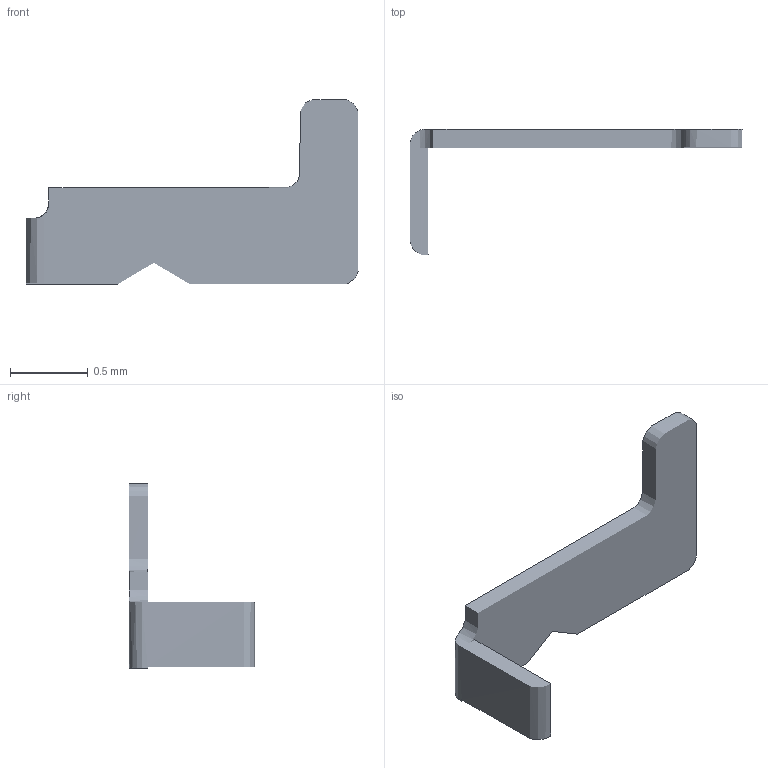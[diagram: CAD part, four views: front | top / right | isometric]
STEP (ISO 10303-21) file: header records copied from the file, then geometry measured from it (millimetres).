
FILE_DESCRIPTION(/* description */ ('STEP AP242 Edition 2','CAx-IF Rec.Pracs.---Representation and Presentation of Product Manufacturing Information (PMI)---4.0---2014-10-13','CAx-IF Rec.Pracs.---3D Tessellated Geometry---0.4---2014-09-14','2;1','CAx-IF Rec.Pracs.---User Defined Attributes---1.5---2016-08-15'),/* implementation_level */ '2;1');
FILE_NAME(/* name */ 'Assembly 1 - Part 29',/* time_stamp */ '2026-03-29T21:14:57Z',/* author */ (''),/* organization */ (''),/* preprocessor_version */ 'ST-DEVELOPER v20',/* originating_system */ 'ONSHAPE BY PTC INC, 1.212',/* authorisation */ ' ');
FILE_SCHEMA (('AP242_MANAGED_MODEL_BASED_3D_ENGINEERING_MIM_LF { 1 0 10303 442 3 1 4 }'));
Length unit declared in the file: metre
Products named in the file (1): Part 29
Bounding box: 2.13 x 0.81 x 1.19 mm (x, y, z)
Surface area: 4.4 mm2 (no closed solid volume)
Topology: 0 solids, 1 shells, 1 faces, 0 edges, 0 vertices
Faces by surface type: other 1
Entity records: 31 total; most frequent: DIRECTION 2, SHAPE_REPRESENTATION_RELATIONSHIP 1, TESSELLATED_SHAPE_REPRESENTATION 1, STYLED_ITEM 1, PRESENTATION_STYLE_ASSIGNMENT 1, SURFACE_STYLE_USAGE 1, SURFACE_SIDE_STYLE 1, SURFACE_STYLE_FILL_AREA 1
